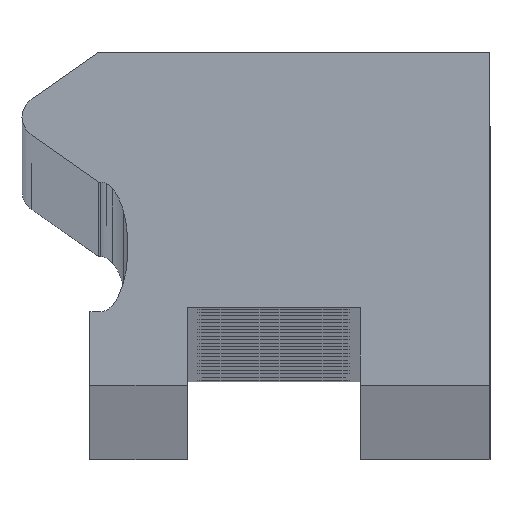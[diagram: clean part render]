
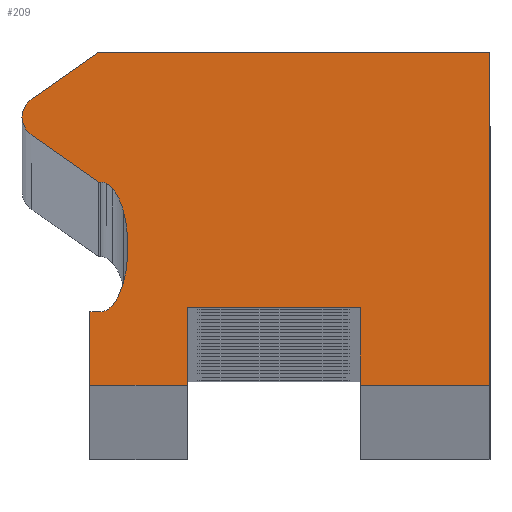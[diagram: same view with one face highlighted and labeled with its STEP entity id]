
A CAD part, top view. The second image highlights one B-rep face of the part: STEP entity #209.
In plain terms, the highlighted planar face has unit normal (0, 0, 1).
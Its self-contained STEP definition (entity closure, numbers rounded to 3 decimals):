
#209=ADVANCED_FACE('',(#545),#546,.F.);
#545=FACE_OUTER_BOUND('',#881,.T.);
#546=PLANE('',#882);
#881=EDGE_LOOP('',(#1928,#1929,#1930,#1931,#1932,#1933,#1934,#1935,#1936,#1937,#1938,#1939,#1940,#1941,#1942,#1943,#1944,#1945,#1946,#1947,#1948,#1949,#1950));
#882=AXIS2_PLACEMENT_3D('',#1951,#1952,#1953);
#1928=ORIENTED_EDGE('',*,*,#2286,.F.);
#1929=ORIENTED_EDGE('',*,*,#2228,.F.);
#1930=ORIENTED_EDGE('',*,*,#2232,.F.);
#1931=ORIENTED_EDGE('',*,*,#2235,.F.);
#1932=ORIENTED_EDGE('',*,*,#2237,.F.);
#1933=ORIENTED_EDGE('',*,*,#1959,.F.);
#1934=ORIENTED_EDGE('',*,*,#2240,.F.);
#1935=ORIENTED_EDGE('',*,*,#2243,.F.);
#1936=ORIENTED_EDGE('',*,*,#2246,.T.);
#1937=ORIENTED_EDGE('',*,*,#2249,.T.);
#1938=ORIENTED_EDGE('',*,*,#2252,.T.);
#1939=ORIENTED_EDGE('',*,*,#2255,.T.);
#1940=ORIENTED_EDGE('',*,*,#2258,.T.);
#1941=ORIENTED_EDGE('',*,*,#2259,.T.);
#1942=ORIENTED_EDGE('',*,*,#1957,.T.);
#1943=ORIENTED_EDGE('',*,*,#2263,.T.);
#1944=ORIENTED_EDGE('',*,*,#2266,.T.);
#1945=ORIENTED_EDGE('',*,*,#2269,.T.);
#1946=ORIENTED_EDGE('',*,*,#2272,.T.);
#1947=ORIENTED_EDGE('',*,*,#2275,.F.);
#1948=ORIENTED_EDGE('',*,*,#2278,.F.);
#1949=ORIENTED_EDGE('',*,*,#2281,.F.);
#1950=ORIENTED_EDGE('',*,*,#2284,.F.);
#1951=CARTESIAN_POINT('',(0.04,3.828,986.0));
#1952=DIRECTION('',(0.,0.0,-1.0));
#1953=DIRECTION('',(-1.0,0.0,0.));
#1957=EDGE_CURVE('',#2288,#2292,#2294,.T.);
#1959=EDGE_CURVE('',#2295,#2298,#2299,.T.);
#2228=EDGE_CURVE('',#2746,#2748,#2749,.T.);
#2232=EDGE_CURVE('',#2753,#2746,#2755,.T.);
#2235=EDGE_CURVE('',#2758,#2753,#2760,.T.);
#2237=EDGE_CURVE('',#2298,#2758,#2762,.T.);
#2240=EDGE_CURVE('',#2765,#2295,#2767,.T.);
#2243=EDGE_CURVE('',#2770,#2765,#2772,.T.);
#2246=EDGE_CURVE('',#2770,#2775,#2777,.T.);
#2249=EDGE_CURVE('',#2775,#2780,#2782,.T.);
#2252=EDGE_CURVE('',#2780,#2785,#2787,.T.);
#2255=EDGE_CURVE('',#2785,#2790,#2792,.T.);
#2258=EDGE_CURVE('',#2790,#2795,#2797,.T.);
#2259=EDGE_CURVE('',#2795,#2288,#2798,.T.);
#2263=EDGE_CURVE('',#2292,#2802,#2804,.T.);
#2266=EDGE_CURVE('',#2802,#2807,#2809,.T.);
#2269=EDGE_CURVE('',#2807,#2812,#2814,.T.);
#2272=EDGE_CURVE('',#2812,#2817,#2819,.T.);
#2275=EDGE_CURVE('',#2822,#2817,#2824,.T.);
#2278=EDGE_CURVE('',#2827,#2822,#2829,.T.);
#2281=EDGE_CURVE('',#2832,#2827,#2834,.T.);
#2284=EDGE_CURVE('',#2837,#2832,#2839,.T.);
#2286=EDGE_CURVE('',#2748,#2837,#2841,.T.);
#2288=VERTEX_POINT('',#2843);
#2292=VERTEX_POINT('',#2848);
#2294=CIRCLE('',#2851,3.341);
#2295=VERTEX_POINT('',#2852);
#2298=VERTEX_POINT('',#2856);
#2299=CIRCLE('',#2857,0.5);
#2746=VERTEX_POINT('',#3394);
#2748=VERTEX_POINT('',#3397);
#2749=LINE('',#3398,#3399);
#2753=VERTEX_POINT('',#3405);
#2755=LINE('',#3408,#3409);
#2758=VERTEX_POINT('',#3413);
#2760=LINE('',#3416,#3417);
#2762=LINE('',#3420,#3421);
#2765=VERTEX_POINT('',#3424);
#2767=CIRCLE('',#3427,0.5);
#2770=VERTEX_POINT('',#3431);
#2772=LINE('',#3434,#3435);
#2775=VERTEX_POINT('',#3439);
#2777=LINE('',#3442,#3443);
#2780=VERTEX_POINT('',#3446);
#2782=CIRCLE('',#3449,0.287);
#2785=VERTEX_POINT('',#3452);
#2787=CIRCLE('',#3455,0.435);
#2790=VERTEX_POINT('',#3458);
#2792=CIRCLE('',#3461,0.953);
#2795=VERTEX_POINT('',#3464);
#2797=CIRCLE('',#3467,1.884);
#2798=CIRCLE('',#3468,3.341);
#2802=VERTEX_POINT('',#3472);
#2804=CIRCLE('',#3475,2.421);
#2807=VERTEX_POINT('',#3478);
#2809=CIRCLE('',#3481,0.836);
#2812=VERTEX_POINT('',#3484);
#2814=CIRCLE('',#3487,0.324);
#2817=VERTEX_POINT('',#3491);
#2819=LINE('',#3494,#3495);
#2822=VERTEX_POINT('',#3499);
#2824=LINE('',#3502,#3503);
#2827=VERTEX_POINT('',#3507);
#2829=LINE('',#3510,#3511);
#2832=VERTEX_POINT('',#3515);
#2834=LINE('',#3518,#3519);
#2837=VERTEX_POINT('',#3523);
#2839=LINE('',#3526,#3527);
#2841=LINE('',#3530,#3531);
#2843=CARTESIAN_POINT('',(-3.37,3.199,986.0));
#2848=CARTESIAN_POINT('',(-3.378,2.957,986.0));
#2851=AXIS2_PLACEMENT_3D('',#3537,#3538,#3539);
#2852=CARTESIAN_POINT('',(-5.818,6.2,986.0));
#2856=CARTESIAN_POINT('',(-5.605,6.61,986.0));
#2857=AXIS2_PLACEMENT_3D('',#3541,#3542,#3543);
#3394=CARTESIAN_POINT('',(5.,0.0,986.0));
#3397=CARTESIAN_POINT('',(2.,0.0,986.0));
#3398=CARTESIAN_POINT('',(5.,0.0,986.0));
#3399=VECTOR('',#4166,1.0);
#3405=CARTESIAN_POINT('',(5.,7.7,986.0));
#3408=CARTESIAN_POINT('',(5.,7.7,986.0));
#3409=VECTOR('',#4170,1.0);
#3413=CARTESIAN_POINT('',(-4.048,7.7,986.0));
#3416=CARTESIAN_POINT('',(-4.048,7.7,986.0));
#3417=VECTOR('',#4173,1.0);
#3420=CARTESIAN_POINT('',(-5.605,6.61,986.0));
#3421=VECTOR('',#4175,1.0);
#3424=CARTESIAN_POINT('',(-5.605,5.79,986.0));
#3427=AXIS2_PLACEMENT_3D('',#4180,#4181,#4182);
#3431=CARTESIAN_POINT('',(-4.048,4.7,986.0));
#3434=CARTESIAN_POINT('',(-4.048,4.7,986.0));
#3435=VECTOR('',#4185,1.0);
#3439=CARTESIAN_POINT('',(-4.,4.7,986.0));
#3442=CARTESIAN_POINT('',(-4.048,4.7,986.0));
#3443=VECTOR('',#4188,1.0);
#3446=CARTESIAN_POINT('',(-3.871,4.668,986.0));
#3449=AXIS2_PLACEMENT_3D('',#4193,#4194,#4195);
#3452=CARTESIAN_POINT('',(-3.719,4.541,986.0));
#3455=AXIS2_PLACEMENT_3D('',#4200,#4201,#4202);
#3458=CARTESIAN_POINT('',(-3.576,4.309,986.0));
#3461=AXIS2_PLACEMENT_3D('',#4207,#4208,#4209);
#3464=CARTESIAN_POINT('',(-3.466,3.996,986.0));
#3467=AXIS2_PLACEMENT_3D('',#4214,#4215,#4216);
#3468=AXIS2_PLACEMENT_3D('',#4217,#4218,#4219);
#3472=CARTESIAN_POINT('',(-3.598,2.045,986.0));
#3475=AXIS2_PLACEMENT_3D('',#4227,#4228,#4229);
#3478=CARTESIAN_POINT('',(-3.818,1.764,986.0));
#3481=AXIS2_PLACEMENT_3D('',#4234,#4235,#4236);
#3484=CARTESIAN_POINT('',(-4.,1.7,986.0));
#3487=AXIS2_PLACEMENT_3D('',#4241,#4242,#4243);
#3491=CARTESIAN_POINT('',(-4.25,1.7,986.0));
#3494=CARTESIAN_POINT('',(-4.,1.7,986.0));
#3495=VECTOR('',#4246,1.0);
#3499=CARTESIAN_POINT('',(-4.25,0.0,986.0));
#3502=CARTESIAN_POINT('',(-4.25,0.0,986.0));
#3503=VECTOR('',#4249,1.0);
#3507=CARTESIAN_POINT('',(-2.,0.0,986.0));
#3510=CARTESIAN_POINT('',(-2.,0.0,986.0));
#3511=VECTOR('',#4252,1.0);
#3515=CARTESIAN_POINT('',(-2.,1.8,986.0));
#3518=CARTESIAN_POINT('',(-2.,1.8,986.0));
#3519=VECTOR('',#4255,1.0);
#3523=CARTESIAN_POINT('',(2.,1.8,986.0));
#3526=CARTESIAN_POINT('',(2.,1.8,986.0));
#3527=VECTOR('',#4258,1.0);
#3530=CARTESIAN_POINT('',(2.,0.0,986.0));
#3531=VECTOR('',#4260,1.0);
#3537=CARTESIAN_POINT('',(-6.711,3.199,986.0));
#3538=DIRECTION('',(0.,0.0,-1.0));
#3539=DIRECTION('',(-1.0,0.0,0.));
#3541=CARTESIAN_POINT('',(-5.318,6.2,986.0));
#3542=DIRECTION('',(0.,0.0,-1.0));
#3543=DIRECTION('',(-1.0,0.0,0.));
#4166=DIRECTION('',(-1.0,0.0,0.));
#4170=DIRECTION('',(0.0,-1.0,-0.0));
#4173=DIRECTION('',(1.0,0.0,0.));
#4175=DIRECTION('',(0.819,0.574,0.));
#4180=CARTESIAN_POINT('',(-5.318,6.2,986.0));
#4181=DIRECTION('',(0.,0.0,-1.0));
#4182=DIRECTION('',(-1.0,0.0,0.));
#4185=DIRECTION('',(-0.819,0.574,0.));
#4188=DIRECTION('',(1.0,0.0,0.));
#4193=CARTESIAN_POINT('',(-4.002,4.413,986.0));
#4194=DIRECTION('',(0.,0.0,-1.0));
#4195=DIRECTION('',(-1.0,0.0,0.));
#4200=CARTESIAN_POINT('',(-4.068,4.28,986.0));
#4201=DIRECTION('',(0.,0.0,-1.0));
#4202=DIRECTION('',(-1.0,0.0,0.));
#4207=CARTESIAN_POINT('',(-4.449,3.928,986.0));
#4208=DIRECTION('',(0.,0.0,-1.0));
#4209=DIRECTION('',(-1.0,0.0,0.));
#4214=CARTESIAN_POINT('',(-5.291,3.532,986.0));
#4215=DIRECTION('',(0.,0.0,-1.0));
#4216=DIRECTION('',(-1.0,0.0,0.));
#4217=CARTESIAN_POINT('',(-6.711,3.199,986.0));
#4218=DIRECTION('',(0.,0.0,-1.0));
#4219=DIRECTION('',(-1.0,0.0,0.));
#4227=CARTESIAN_POINT('',(-5.797,3.057,986.0));
#4228=DIRECTION('',(0.,0.0,-1.0));
#4229=DIRECTION('',(-1.0,0.0,0.));
#4234=CARTESIAN_POINT('',(-4.351,2.408,986.0));
#4235=DIRECTION('',(0.,0.0,-1.0));
#4236=DIRECTION('',(-1.0,0.0,0.));
#4241=CARTESIAN_POINT('',(-4.011,2.023,986.0));
#4242=DIRECTION('',(0.,0.0,-1.0));
#4243=DIRECTION('',(-1.0,0.0,0.));
#4246=DIRECTION('',(-1.0,0.0,0.));
#4249=DIRECTION('',(0.0,1.0,0.0));
#4252=DIRECTION('',(-1.0,0.0,0.));
#4255=DIRECTION('',(0.0,-1.0,-0.0));
#4258=DIRECTION('',(-1.0,0.0,0.));
#4260=DIRECTION('',(0.0,1.0,0.0));
